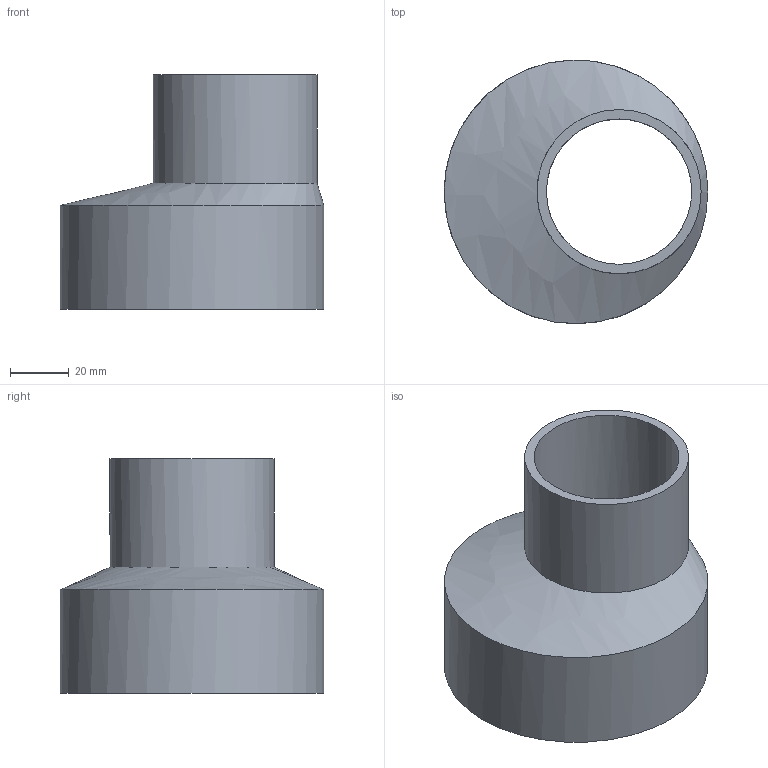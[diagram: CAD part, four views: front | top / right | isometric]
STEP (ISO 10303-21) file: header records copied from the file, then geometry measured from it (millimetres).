
FILE_DESCRIPTION(/* description */ (''),/* implementation_level */ '2;1');
FILE_NAME(/* name */ 'Z:\Geberit\Export\NewStep\Reduktion_Ipart\stp\308050.stp',/* time_stamp */ '2014-04-03T18:13:48+02:00',/* author */ ('nelson'),/* organization */ (''),/* preprocessor_version */ 'ST-DEVELOPER v15.2',/* originating_system */ 'Autodesk Inventor 2014',/* authorisation */ '');
FILE_SCHEMA (('AUTOMOTIVE_DESIGN { 1 0 10303 214 3 1 1 }'));
Length unit declared in the file: millimetre
Products named in the file (1): 308050
Bounding box: 90 x 90 x 80 mm (x, y, z)
Volume: 78619.3 mm3; surface area: 41055.2 mm2
Topology: 1 solids, 1 shells, 8 faces, 18 edges, 12 vertices
Faces by surface type: cylinder 4, bspline 2, plane 2
Full cylindrical faces by diameter (mm): 49.6 x1, 56 x1, 79 x1, 90 x1
Entity records: 271 total; most frequent: CARTESIAN_POINT 71, DIRECTION 38, ORIENTED_EDGE 28, AXIS2_PLACEMENT_3D 19, EDGE_LOOP 14, EDGE_CURVE 14, CIRCLE 12, VERTEX_POINT 12
